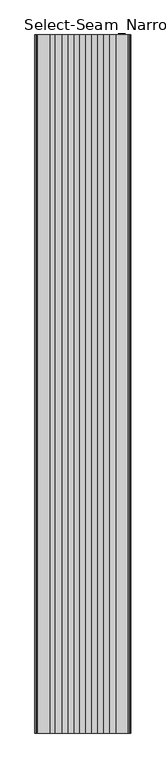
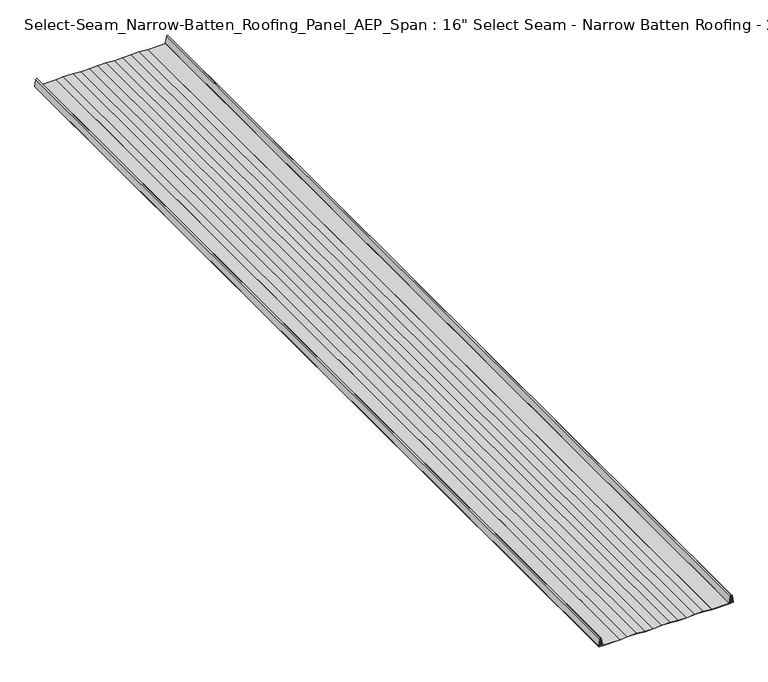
"""IFC4 building model written with IfcOpenShell, lengths in millimetres: proxy geometry."""

from ifc_helpers import new_model, si_unit, point, frame, frame_2d, origin, place, context, project, spatial, polyline, circle_curve, trimmed, segment, composite_curve, outline, extrude, source, transform, mapped, element, save


def proxy_86c54d77(model_context):
    return source(origin(), model_context, "Body", "SweptSolid", [
        extrude(outline(composite_curve([segment(polyline([(3.7394555, -207.9308914), (4.2086083, -208.5778907), (1.4041547, -210.5466896), (23.3725009, -207.3527157)]), True, "CONTINUOUS"), segment(trimmed(circle_curve(frame_2d((23.3246979, -205.4784885)), 1.8748367), [point((23.3725009, -207.3527157))], [point((23.8974513, -203.6932809))], True, "CARTESIAN"), True, "CONTINUOUS"), segment(polyline([(23.8974513, -203.6932809), (1.4145788, -200.1143475), (4.2479637, -202.0661718), (3.760774, -202.7380454), (0.8517975, -200.6286855)]), True, "CONTINUOUS"), segment(trimmed(circle_curve(frame_2d((1.7810778, -200.3855977)), 0.9605486), [point((0.8517975, -200.6286855))], [point((1.8542575, -199.4278408))], False, "CARTESIAN"), True, "CONTINUOUS"), segment(polyline([(1.8542575, -199.4278408), (24.0639992, -202.9636306)]), True, "CONTINUOUS"), segment(trimmed(circle_curve(frame_2d((23.3206239, -205.478222)), 2.6221702), [point((24.0639992, -202.9636306))], [point((23.9569589, -208.0220094))], False, "CARTESIAN"), True, "CONTINUOUS"), segment(polyline([(23.9569589, -208.0220094), (1.8070914, -211.2427208)]), True, "CONTINUOUS"), segment(trimmed(circle_curve(frame_2d((1.7597593, -210.2833391)), 0.9605486), [point((1.8070914, -211.2427208))], [point((0.830479, -210.0402512))], False, "CARTESIAN"), True, "CONTINUOUS"), segment(polyline([(0.830479, -210.0402512), (3.7394555, -207.9308914)]), True, "CONTINUOUS")], self_intersect=False)), frame((0.0, -3048.0, 0.0), z_axis=(0.0, 1.0, 0.0), x_axis=(0.0, 0.0, 1.0)), (0.0, 0.0, 1.0), 3048.0),
        extrude(outline(composite_curve([segment(polyline([(3.760774, 199.5631964), (4.2227917, 198.9260369), (1.4139813, 196.9390652), (23.3342898, 200.4284626)]), True, "CONTINUOUS"), segment(trimmed(circle_curve(frame_2d((23.325029, 202.3030985)), 1.8746588), [point((23.3342898, 200.4284626))], [point((23.81023, 204.1138789))], True, "CARTESIAN"), True, "CONTINUOUS"), segment(polyline([(23.81023, 204.1138789), (1.4046757, 207.3714628), (4.2079011, 205.4020664), (3.7394555, 204.7560424), (0.830479, 206.8654022)]), True, "CONTINUOUS"), segment(trimmed(circle_curve(frame_2d((1.7597593, 207.1084901)), 0.9605486), [point((0.830479, 206.8654022))], [point((1.9876092, 208.0416235))], False, "CARTESIAN"), True, "CONTINUOUS"), segment(polyline([(1.9876092, 208.0416235), (23.9569589, 204.8471604)]), True, "CONTINUOUS"), segment(trimmed(circle_curve(frame_2d((23.3206239, 202.3033729)), 2.6221702), [point((23.9569589, 204.8471604))], [point((24.0639992, 199.7887816))], False, "CARTESIAN"), True, "CONTINUOUS"), segment(polyline([(24.0639992, 199.7887816), (1.8542575, 196.2529917)]), True, "CONTINUOUS"), segment(trimmed(circle_curve(frame_2d((1.7810778, 197.2107486)), 0.9605486), [point((1.8542575, 196.2529917))], [point((0.8517975, 197.4538365))], False, "CARTESIAN"), True, "CONTINUOUS"), segment(polyline([(0.8517975, 197.4538365), (3.760774, 199.5631964)]), True, "CONTINUOUS")], self_intersect=False)), frame((0.0, -3048.0, 0.0), z_axis=(0.0, 1.0, 0.0), x_axis=(0.0, 0.0, 1.0)), (0.0, 0.0, 1.0), 3048.0),
        extrude(outline(polyline([(2.1488696, 115.1192185), (0.0, 141.0540291), (0.7815562, 141.0540291), (2.8956296, 115.1501025), (2.8956296, 89.1535238), (0.74676, 63.2187132), (0.74676, 37.3456707), (2.8956296, 11.41086), (2.8956296, -14.5857187), (0.74676, -40.5205293), (0.74676, -66.3935718), (2.8956296, -92.3283824), (2.8956296, -122.8128917), (0.7815609, -144.2288878), (0.0, -144.2288878), (2.1488696, -122.7755854), (2.1488696, -92.3592665), (0.0, -66.4244559), (0.0, -40.4896453), (2.1488696, -14.5548346), (2.1488696, 11.379976), (0.0, 37.3147866), (0.0, 63.2495972), (2.1488696, 89.1844078), (2.1488696, 115.1192185)])), frame((0.0, -3048.0, 0.0), z_axis=(0.0, 1.0, 0.0), x_axis=(0.0, 0.0, 1.0)), (0.0, 0.0, 1.0), 3048.0),
        extrude(outline(composite_curve([segment(polyline([(0.9605486, 201.6125707), (22.4631926, 201.6125707), (22.4631926, 200.8302507), (0.78232, 200.8302507), (0.78232, 141.0540291), (0.0, 141.0540291), (0.0, 200.6520221)]), True, "CONTINUOUS"), segment(trimmed(circle_curve(frame_2d((0.9605486, 200.6520221)), 0.9605486), [point((0.0, 200.6520221))], [point((0.9605486, 201.6125707))], False, "CARTESIAN"), True, "CONTINUOUS")], self_intersect=False)), frame((0.0, -3048.0, 0.0), z_axis=(0.0, 1.0, 0.0), x_axis=(0.0, 0.0, 1.0)), (0.0, 0.0, 1.0), 3048.0),
        extrude(outline(composite_curve([segment(polyline([(22.4631926, -204.7874293), (0.9605486, -204.7874293)]), True, "CONTINUOUS"), segment(trimmed(circle_curve(frame_2d((0.9605486, -203.8268808)), 0.9605486), [point((0.9605486, -204.7874293))], [point((0.0, -203.8268808))], False, "CARTESIAN"), True, "CONTINUOUS"), segment(polyline([(0.0, -203.8268808), (0.0, -144.2288878), (0.78232, -144.2288878), (0.78232, -204.0050997), (22.4631926, -204.0050997), (22.4631926, -204.7874293)]), True, "CONTINUOUS")], self_intersect=False)), frame((0.0, -3048.0, 0.0), z_axis=(0.0, 1.0, 0.0), x_axis=(0.0, 0.0, 1.0)), (0.0, 0.0, 1.0), 3048.0),
    ])


if __name__ == "__main__":
    model = new_model("IFC4")
    model_context = context("Model", 3, world=origin())
    ifc_project = project(units=[si_unit("LENGTHUNIT", "METRE", prefix="MILLI")], contexts=[model_context])
    site = spatial("IfcSite", under=ifc_project)
    building = spatial("IfcBuilding", under=site)
    placement = place(None, origin())
    proxy_shape = proxy_86c54d77(model_context)
    element("IfcBuildingElementProxy", 1, Name="Select-Seam_Narrow-Batten_Roofing_Panel_AEP_Span : 16\" Select Seam - Narrow Batten Roofing - 22ga", ObjectType="Select-Seam_Narrow-Batten_Roofing_Panel_AEP_Span : 16\" Select Seam - Narrow Batten Roofing - 22ga", at=placement, inside=building, context=model_context, shape_type="MappedRepresentation", body=[
        mapped(proxy_shape, transform((0.0, 0.0, 0.0), x_axis=(1.0, 0.0, 0.0), y_axis=(0.0, 1.0, 0.0), z_axis=(0.0, 0.0, 1.0))),
    ])
    save(model, "model.ifc")
